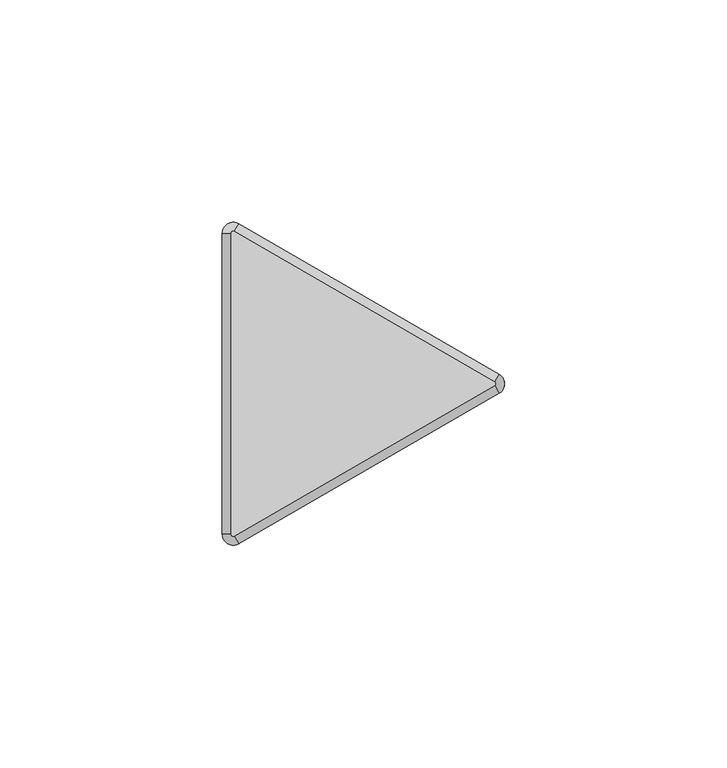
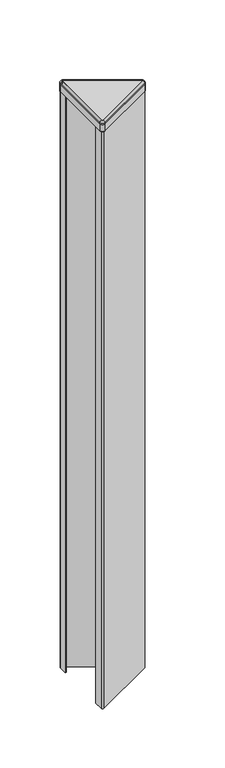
"""IFC4 building model written with IfcOpenShell, lengths in millimetres: furniture geometry, Steelcase - Answer Solution - Panel - 120deg Change-of-Height Trim - Thin : Y Corner - 24H for 84H App."""

from ifc_helpers import new_model, si_unit, point, frame, frame_2d, origin, place, context, project, spatial, polyline, circle_curve, ellipse_curve, trimmed, segment, composite_curve, outline, extrude, source, transform, mapped, element, save
from ifc_brep_helpers import plane_surface, cylinder_surface, revolved_surface, advanced_brep


def furniture_b0f1d7fd(model_context):
    return source(origin(), model_context, "Body", "SolidModel", [
        advanced_brep(
        [(-10.518645, -37.3335529, 2138.0628978), (-14.2052101, -35.2051135, 2138.0628978), (-14.2052101, -35.2051135, 2137.1164663), (-10.518645, -37.3335529, 2137.1164663), (-11.46175, -35.7000471, 2139.95), (-12.319, -35.2051135, 2139.95), (-11.46175, -35.7000471, 2137.1164663), (-12.319, -35.2051135, 2137.1164663), (48.0429908, -3.5229767, 2137.1164663), (48.0429908, -3.5229767, 2138.0628978), (47.0998858, -1.8894709, 2139.95), (47.0998858, -1.8894709, 2137.1164663), (48.0429908, 0.733902, 2138.0628978), (48.0429908, 0.733902, 2137.1164663), (47.0998858, -0.8996038, 2139.95), (47.0998858, -0.8996038, 2137.1164663), (-10.518645, 34.5444782, 2137.1164663), (-14.2052101, 32.4160388, 2137.1164663), (-11.46175, 32.9109723, 2137.1164663), (-12.319, 32.4160388, 2137.1164663), (-10.518645, 34.5444782, 2138.0628978), (-11.46175, 32.9109723, 2139.95), (-14.2052101, 32.4160388, 2138.0628978), (-12.319, 32.4160388, 2139.95)],
        [
            (0, 1, circle_curve(frame((-11.7475, -35.2051135, 2138.0628978), z_axis=(0.0, 0.0, -1.0), x_axis=(-1.0, 0.0, 0.0)), 2.4577101)),
            (1, 2),
            (2, 3, circle_curve(frame((-11.7475, -35.2051135, 2137.1164663), z_axis=(0.0, 0.0, 1.0), x_axis=(-1.0, 0.0, 0.0)), 2.4577101)),
            (3, 0),
            (4, 5, circle_curve(frame((-11.7475, -35.2051135, 2139.95), z_axis=(0.0, 0.0, -1.0), x_axis=(-1.0, 0.0, 0.0)), 0.5715)),
            (5, 1, circle_curve(frame((-12.3181076, -35.2051135, 2138.0628978), z_axis=(0.0, -1.0, 0.0), x_axis=(1.0, 0.0, 0.0)), 1.8871024)),
            (0, 4, circle_curve(frame((-11.4621962, -35.6992743, 2138.0628978), z_axis=(-0.8660254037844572, -0.49999999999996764, 0.0), x_axis=(-0.49999999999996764, 0.8660254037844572, 0.0)), 1.8871024)),
            (6, 7, circle_curve(frame((-11.7475, -35.2051135, 2137.1164663), z_axis=(0.0, 0.0, -1.0), x_axis=(-1.0, 0.0, 0.0)), 0.5715)),
            (7, 5),
            (4, 6),
            (3, 8),
            (8, 9),
            (9, 0),
            (9, 10, circle_curve(frame((47.0994396, -1.8886981, 2138.0628978), z_axis=(-0.8660254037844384, -0.5000000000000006, 0.0), x_axis=(-0.5000000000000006, 0.8660254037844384, 0.0)), 1.8871024)),
            (10, 4),
            (10, 11),
            (11, 6),
            (12, 9, circle_curve(frame((46.8141358, -1.3945374, 2138.0628978), z_axis=(0.0, 0.0, -1.0), x_axis=(0.4999999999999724, -0.8660254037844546, 0.0)), 2.4577101)),
            (8, 13, circle_curve(frame((46.8141358, -1.3945374, 2137.1164663), z_axis=(0.0, 0.0, 1.0), x_axis=(0.4999999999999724, -0.8660254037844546, 0.0)), 2.4577101)),
            (13, 12),
            (14, 10, circle_curve(frame((46.8141358, -1.3945374, 2139.95), z_axis=(0.0, 0.0, -1.0), x_axis=(0.4999999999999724, -0.8660254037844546, 0.0)), 0.5715)),
            (12, 14, circle_curve(frame((47.0994396, -0.9003766, 2138.0628978), z_axis=(0.8660254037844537, -0.49999999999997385, 0.0), x_axis=(-0.49999999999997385, -0.8660254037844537, 0.0)), 1.8871024)),
            (15, 11, circle_curve(frame((46.8141358, -1.3945374, 2137.1164663), z_axis=(0.0, 0.0, -1.0), x_axis=(0.4999999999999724, -0.8660254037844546, 0.0)), 0.5715)),
            (14, 15),
            (16, 13),
            (2, 17),
            (17, 16, circle_curve(frame((-11.7475, 32.4160388, 2137.1164663), z_axis=(0.0, 0.0, -1.0), x_axis=(0.500000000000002, 0.8660254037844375, 0.0)), 2.4577101)),
            (15, 18),
            (18, 19, circle_curve(frame((-11.7475, 32.4160388, 2137.1164663), z_axis=(0.0, 0.0, 1.0), x_axis=(0.500000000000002, 0.8660254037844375, 0.0)), 0.5715)),
            (19, 7),
            (16, 20),
            (20, 12),
            (20, 21, circle_curve(frame((-11.4621962, 32.9101995, 2138.0628978), z_axis=(0.8660254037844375, -0.5000000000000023, 0.0), x_axis=(-0.5000000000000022, -0.8660254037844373, 0.0)), 1.8871024)),
            (21, 14),
            (21, 18),
            (22, 20, circle_curve(frame((-11.7475, 32.4160388, 2138.0628978), z_axis=(0.0, 0.0, -1.0), x_axis=(0.500000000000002, 0.8660254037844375, 0.0)), 2.4577101)),
            (17, 22),
            (23, 21, circle_curve(frame((-11.7475, 32.4160388, 2139.95), z_axis=(0.0, 0.0, -1.0), x_axis=(0.500000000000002, 0.8660254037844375, 0.0)), 0.5715)),
            (22, 23, circle_curve(frame((-12.3181076, 32.4160388, 2138.0628978), z_axis=(0.0, 1.0, 0.0), x_axis=(1.0, 0.0, 0.0)), 1.8871024)),
            (23, 19),
            (1, 22),
            (5, 23),
        ],
        [
            cylinder_surface(frame((-11.7475, -35.2051135, 0.0), z_axis=(0.0, 0.0, 1.0), x_axis=(-1.0, 0.0, 0.0)), 2.4577101),
            revolved_surface(trimmed(ellipse_curve(frame((-12.3181076, -35.2051135, 2138.0628978), z_axis=(0.0, 1.0, 0.0), x_axis=(1.0, 0.0, 0.0)), 1.8871024, 1.8871024), [point((-14.2052101, -35.2051135, 2138.0628978))], [point((-12.319, -35.2051135, 2139.95))], True, "CARTESIAN"), (-11.7475, -35.2051135, 0.0), (0.0, 0.0, 1.0)),
            revolved_surface(polyline([(-12.319, -35.2051135, 2139.95), (-12.319, -35.2051135, 2137.1164663)]), (-11.7475, -35.2051135, 0.0), (0.0, 0.0, 1.0)),
            plane_surface(frame((-10.518645, -37.3335529, 2137.1164663), z_axis=(0.49999999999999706, -0.8660254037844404, 0.0), x_axis=(0.8660254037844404, 0.49999999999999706, 0.0))),
            cylinder_surface(frame((-11.4621962, -35.6992743, 2138.0628978), z_axis=(-0.8660254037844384, -0.5000000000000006, 0.0), x_axis=(-0.5000000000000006, 0.8660254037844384, 0.0)), 1.8871024),
            plane_surface(frame((-11.46175, -35.7000471, 2139.95), z_axis=(-0.500000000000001, 0.8660254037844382, 0.0), x_axis=(0.8660254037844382, 0.500000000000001, 0.0))),
            cylinder_surface(frame((46.8141358, -1.3945374, 0.0), z_axis=(0.0, 0.0, 1.0), x_axis=(0.4999999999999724, -0.8660254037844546, 0.0)), 2.4577101),
            revolved_surface(trimmed(ellipse_curve(frame((47.0994396, -1.8886981, 2138.0628978), z_axis=(-0.8660254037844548, -0.499999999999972, 0.0), x_axis=(-0.499999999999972, 0.8660254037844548, 0.0)), 1.8871024, 1.8871024), [point((48.0429908, -3.5229767, 2138.0628978))], [point((47.0998858, -1.8894709, 2139.95))], True, "CARTESIAN"), (46.8141358, -1.3945374, 0.0), (0.0, 0.0, 1.0)),
            revolved_surface(polyline([(47.09988579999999, -1.8894709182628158, 2139.95), (47.09988579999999, -1.8894709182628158, 2137.1164663)]), (46.8141358, -1.3945374, 0.0), (0.0, 0.0, 1.0)),
            plane_surface(frame((47.0998858, -0.8996038, 2137.1164663), z_axis=(0.0, 0.0, -1.0), x_axis=(-0.8660254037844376, 0.5000000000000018, 0.0))),
            plane_surface(frame((48.0429908, 0.733902, 2137.1164663), z_axis=(0.49999999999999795, 0.8660254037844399, 0.0), x_axis=(-0.8660254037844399, 0.49999999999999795, 0.0))),
            cylinder_surface(frame((47.0994396, -0.9003766, 2138.0628978), z_axis=(0.8660254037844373, -0.5000000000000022, 0.0), x_axis=(-0.5000000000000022, -0.8660254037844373, 0.0)), 1.8871024),
            plane_surface(frame((47.0998858, -0.8996038, 2139.95), z_axis=(-0.5000000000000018, -0.8660254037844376, 0.0), x_axis=(-0.8660254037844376, 0.5000000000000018, 0.0))),
            cylinder_surface(frame((-11.7475, 32.4160388, 0.0), z_axis=(0.0, 0.0, 1.0), x_axis=(0.500000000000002, 0.8660254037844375, 0.0)), 2.4577101),
            revolved_surface(trimmed(ellipse_curve(frame((-11.4621962, 32.9101995, 2138.0628978), z_axis=(0.866025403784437, -0.5000000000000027, 0.0), x_axis=(-0.5000000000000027, -0.866025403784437, 0.0)), 1.8871024, 1.8871024), [point((-10.518645, 34.5444782, 2138.0628978))], [point((-11.46175, 32.9109723, 2139.95))], True, "CARTESIAN"), (-11.7475, 32.4160388, 0.0), (0.0, 0.0, 1.0)),
            revolved_surface(polyline([(-11.461749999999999, 32.91097231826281, 2139.95), (-11.461749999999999, 32.91097231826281, 2137.1164663)]), (-11.7475, 32.4160388, 0.0), (0.0, 0.0, 1.0)),
            plane_surface(frame((-14.2052101, 32.4160388, 2137.1164663), z_axis=(-1.0, 0.0, 0.0), x_axis=(0.0, -1.0, 0.0))),
            cylinder_surface(frame((-12.3181076, 32.4160388, 2138.0628978), z_axis=(0.0, 1.0, 0.0), x_axis=(1.0, 0.0, 0.0)), 1.8871024),
            plane_surface(frame((-12.319, 32.4160388, 2139.95), z_axis=(1.0, 0.0, 0.0), x_axis=(0.0, -1.0, 0.0))),
        ],
        [
            (0, [[1, 2, 3, 4]]),
            (1, [[5, 6, -1, 7]]),
            (2, [[8, 9, -5, 10]]),
            (3, [[-4, 11, 12, 13]]),
            (4, [[-7, -13, 14, 15]]),
            (5, [[-10, -15, 16, 17]]),
            (6, [[18, -12, 19, 20]]),
            (7, [[21, -14, -18, 22]]),
            (8, [[23, -16, -21, 24]]),
            (9, [[25, -19, -11, -3, 26, 27], [-8, -17, -23, 28, 29, 30]]),
            (10, [[-20, -25, 31, 32]]),
            (11, [[-22, -32, 33, 34]]),
            (12, [[-24, -34, 35, -28]]),
            (13, [[36, -31, -27, 37]]),
            (14, [[38, -33, -36, 39]]),
            (15, [[-29, -35, -38, 40]]),
            (16, [[-37, -26, -2, 41]]),
            (17, [[-39, -41, -6, 42]]),
            (18, [[-40, -42, -9, -30]]),
        ],
    ),
        extrude(outline(composite_curve([segment(trimmed(circle_curve(frame_2d((47.9522001, -1.3945374)), 1.2978651), [point((48.6011327, -0.2705532))], [point((48.6011327, -2.5185215))], False, "CARTESIAN"), True, "CONTINUOUS"), segment(polyline([(48.6011327, -2.5185215), (-11.6879343, -37.3264306)]), True, "CONTINUOUS"), segment(trimmed(circle_curve(frame_2d((-12.3300896, -36.2141852)), 1.2843104), [point((-11.6879343, -37.3264306))], [point((-13.6144, -36.2141852))], False, "CARTESIAN"), True, "CONTINUOUS"), segment(polyline([(-13.6144, -36.2141852), (-13.6144, -27.3303775), (-12.7, -27.3303775), (-12.7, -36.8548888), (48.7191304, -1.3945374), (-12.7, 34.0658141), (-12.7, 24.5413027), (-13.6144, 24.5413027), (-13.6144, 33.4106259)]), True, "CONTINUOUS"), segment(trimmed(circle_curve(frame_2d((-12.3217269, 33.4106259)), 1.2926731), [point((-13.6144, 33.4106259))], [point((-11.6753904, 34.5301136))], False, "CARTESIAN"), True, "CONTINUOUS"), segment(polyline([(-11.6753904, 34.5301136), (48.6011327, -0.2705532)]), True, "CONTINUOUS")], self_intersect=False)), frame((0.0, 0.0, 1530.35), z_axis=(0.0, 0.0, 1.0), x_axis=(1.0, 0.0, 0.0)), (0.0, 0.0, 1.0), 599.44),
        extrude(outline(composite_curve([segment(trimmed(circle_curve(frame_2d((46.8261011, -1.3945374)), 0.5655173), [point((47.1088598, -0.904785))], [point((47.1088598, -1.8842897))], False, "CARTESIAN"), True, "CONTINUOUS"), segment(polyline([(47.1088598, -1.8842897), (-11.4505119, -35.6935587)]), True, "CONTINUOUS"), segment(trimmed(circle_curve(frame_2d((-11.7400079, -35.1921369)), 0.5789921), [point((-11.4505119, -35.6935587))], [point((-12.319, -35.1921369))], False, "CARTESIAN"), True, "CONTINUOUS"), segment(polyline([(-12.319, -35.1921369), (-12.319, 32.3985888)]), True, "CONTINUOUS"), segment(trimmed(circle_curve(frame_2d((-11.7374252, 32.3985888)), 0.5815748), [point((-12.319, 32.3985888))], [point((-11.4466378, 32.9022473))], False, "CARTESIAN"), True, "CONTINUOUS"), segment(polyline([(-11.4466378, 32.9022473), (47.1088598, -0.904785)]), True, "CONTINUOUS")], self_intersect=False)), frame((0.0, 0.0, 2137.1164663), z_axis=(0.0, 0.0, 1.0), x_axis=(1.0, 0.0, 0.0)), (0.0, 0.0, 1.0), 2.8335337),
        extrude(outline(composite_curve([segment(trimmed(circle_curve(frame_2d((46.8140443, -1.3945374)), 2.4577558), [point((48.0429222, 0.7339416))], [point((48.0429222, -3.5230163))], False, "CARTESIAN"), True, "CONTINUOUS"), segment(polyline([(48.0429222, -3.5230163), (-10.518058, -37.333214)]), True, "CONTINUOUS"), segment(trimmed(circle_curve(frame_2d((-11.7471087, -35.2044357)), 2.4581014), [point((-10.518058, -37.333214))], [point((-14.2052101, -35.2044357))], False, "CARTESIAN"), True, "CONTINUOUS"), segment(polyline([(-14.2052101, -35.2044357), (-14.2052101, 32.4160388)]), True, "CONTINUOUS"), segment(trimmed(circle_curve(frame_2d((-11.7475, 32.4160388)), 2.4577101), [point((-14.2052101, 32.4160388))], [point((-10.518645, 34.5444782))], False, "CARTESIAN"), True, "CONTINUOUS"), segment(polyline([(-10.518645, 34.5444782), (48.0429222, 0.7339416)]), True, "CONTINUOUS")], self_intersect=False)), frame((0.0, 0.0, 2129.79), z_axis=(0.0, 0.0, 1.0), x_axis=(1.0, 0.0, 0.0)), (0.0, 0.0, 1.0), 7.3264663),
    ])


if __name__ == "__main__":
    model = new_model("IFC4")
    model_context = context("Model", 3, world=origin())
    ifc_project = project(units=[si_unit("LENGTHUNIT", "METRE", prefix="MILLI")], contexts=[model_context])
    site = spatial("IfcSite", under=ifc_project)
    building = spatial("IfcBuilding", under=site)
    placement = place(None, origin())
    furniture_shape = furniture_b0f1d7fd(model_context)
    element("IfcFurniture", 1, ObjectType="Steelcase - Answer Solution - Panel - 120deg Change-of-Height Trim - Thin : Y Corner - 24H for 84H App", at=placement, inside=building, context=model_context, shape_type="MappedRepresentation", body=[
        mapped(furniture_shape, transform((0.0, 0.0, 0.0), x_axis=(1.0, 0.0, 0.0), y_axis=(0.0, 1.0, 0.0), z_axis=(0.0, 0.0, 1.0))),
    ])
    save(model, "model.ifc")
